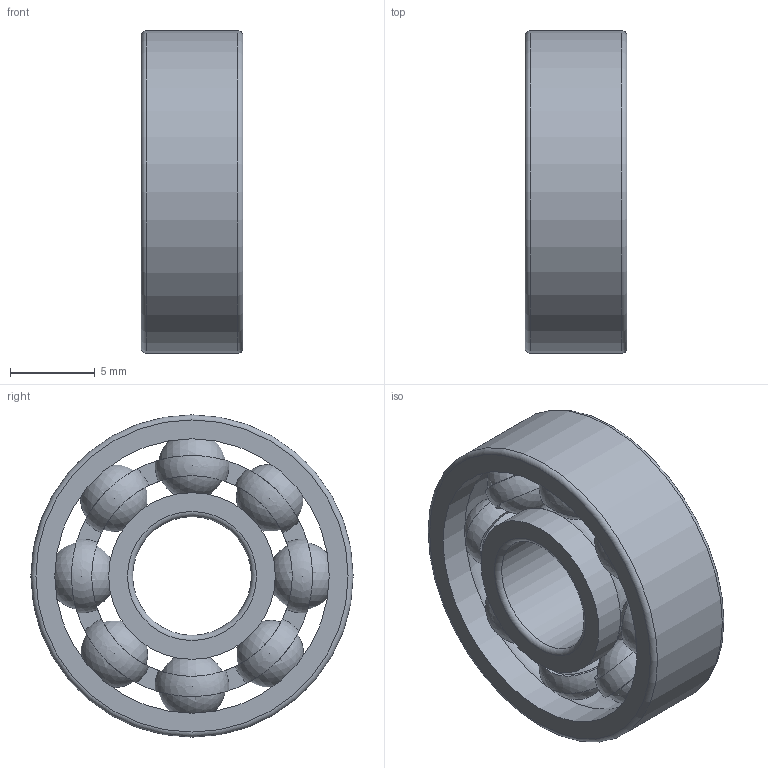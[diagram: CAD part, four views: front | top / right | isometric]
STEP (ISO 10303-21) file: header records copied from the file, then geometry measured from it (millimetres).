
FILE_DESCRIPTION(/* description */ (''),/* implementation_level */ '2;1');
FILE_NAME(/* name */ 'D:\moje\parametrické\62-,60-\rada 62-,60-\62-,60-\607.stp',/* time_stamp */ '2016-02-04T09:49:04+01:00',/* author */ ('OUBALASKO'),/* organization */ (''),/* preprocessor_version */ 'ST-DEVELOPER v15.2',/* originating_system */ 'Autodesk Inventor 2014',/* authorisation */ '');
FILE_SCHEMA (('AUTOMOTIVE_DESIGN { 1 0 10303 214 3 1 1 }'));
Length unit declared in the file: millimetre
Products named in the file (5): 607-02; 607-ball; 607-cage; 607-01; 607
Bounding box: 6 x 19 x 19 mm (x, y, z)
Volume: 926.2 mm3; surface area: 1928.2 mm2
Topology: 12 solids, 12 shells, 92 faces, 348 edges, 228 vertices
Faces by surface type: sphere 40, plane 36, cylinder 10, torus 6
Full cylindrical faces by diameter (mm): 7 x1, 9.825 x2, 11.809 x2, 14.191 x2, 16.175 x2, 19 x1
Entity records: 2272 total; most frequent: CARTESIAN_POINT 935, DIRECTION 298, ORIENTED_EDGE 226, AXIS2_PLACEMENT_3D 149, EDGE_CURVE 113, VERTEX_POINT 82, CIRCLE 81, EDGE_LOOP 69
